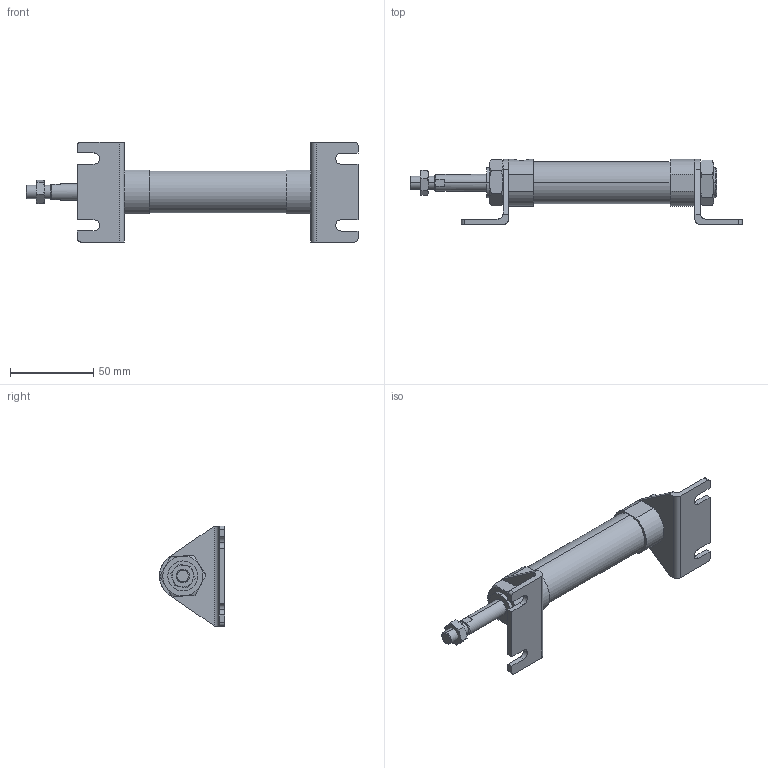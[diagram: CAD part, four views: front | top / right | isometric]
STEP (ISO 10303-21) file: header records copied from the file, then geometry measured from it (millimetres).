
FILE_DESCRIPTION (( 'STEP AP203' ), '1' );
FILE_NAME ('J#0-20-25-L.STEP', '2016-03-10T00:41:36', ( '' ), ( '' ), 'SwSTEP 2.0', 'SolidWorks 2014', '' );
FILE_SCHEMA (( 'CONFIG_CONTROL_DESIGN' ));
Length unit declared in the file: millimetre
Products named in the file (5): J#0-20-25; J#0-20-25-L; J#2-20-L
Assembly tree (6 placements, depth 2):
  J#0-20-25-L
    J#0-20-25
    (unnamed)
    (unnamed)  x2
    J#2-20-L  x2
Bounding box: 199.2 x 39 x 60 mm (x, y, z)
Volume: 89250.9 mm3; surface area: 29636.5 mm2
Topology: 6 solids, 6 shells, 165 faces, 386 edges, 242 vertices
Faces by surface type: plane 73, cylinder 50, torus 36, cone 6
Entity records: 4138 total; most frequent: CARTESIAN_POINT 946, DIRECTION 565, ORIENTED_EDGE 530, EDGE_CURVE 265, AXIS2_PLACEMENT_3D 229, VERTEX_POINT 166, EDGE_LOOP 131, ADVANCED_FACE 116
